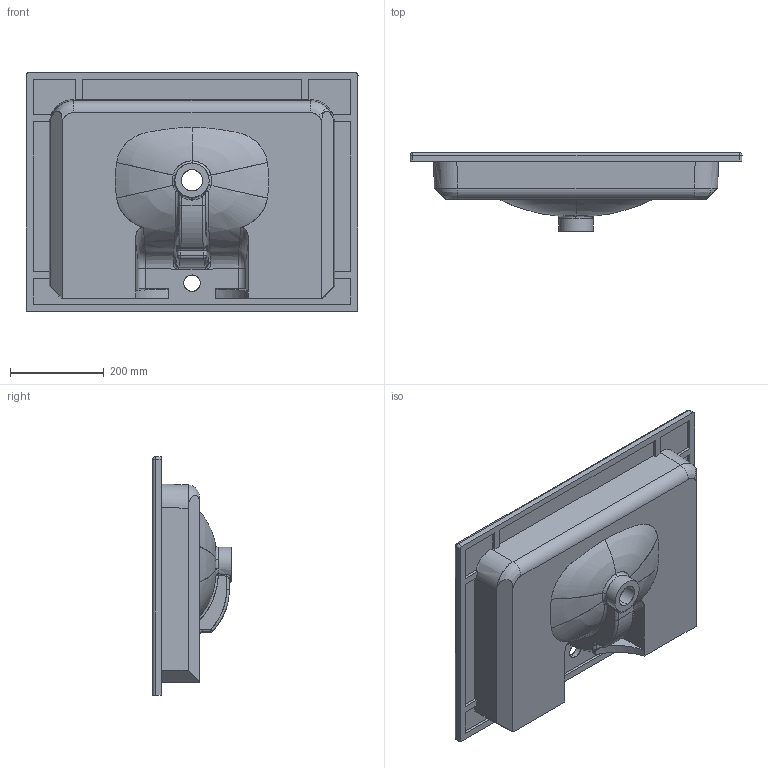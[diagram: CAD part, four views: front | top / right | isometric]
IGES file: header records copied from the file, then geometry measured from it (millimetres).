
Start section: SolidWorks IGES file using NURBS representation for surfaces
Global section: file name: C:\Users\User\Desktop\Soft\lavabi definitivi soft 51 m\soft 710 x 515\definitivo soft 710 x 515.IGS; native system: SolidWorks 2016; preprocessor: SolidWorks 2016; author: User; date: 200629.173947; units: millimetre
Bounding box: 710 x 168 x 510 mm (x, y, z)
Surface area: 1025272.1 mm2 (no closed solid volume)
Topology: 0 solids, 0 shells, 158 faces, 2362 edges, 2354 vertices
Faces by surface type: bspline 158
